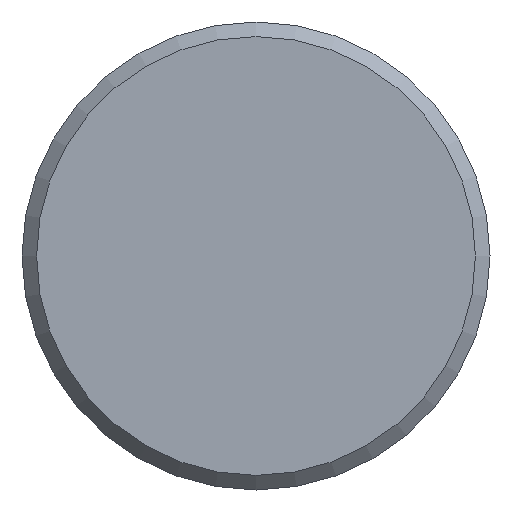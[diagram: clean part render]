
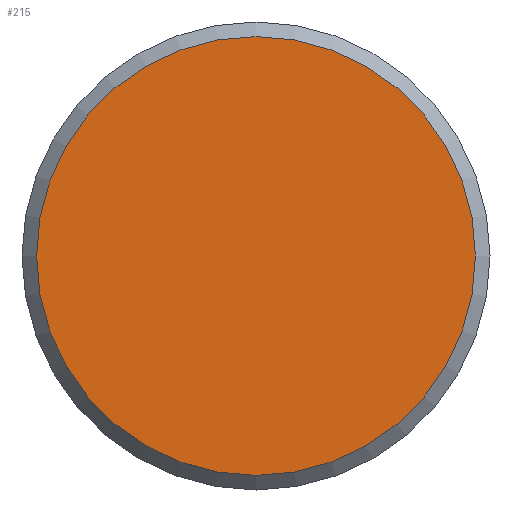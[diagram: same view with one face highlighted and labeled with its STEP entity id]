
A CAD part, left-side view. The second image highlights one B-rep face of the part: STEP entity #215.
In plain terms, the highlighted planar face has unit normal (-1, 0, 0).
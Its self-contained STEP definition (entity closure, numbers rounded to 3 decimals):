
#19 = CIRCLE ( 'NONE', #169, 7.5 ) ;
#20 = FACE_OUTER_BOUND ( 'NONE', #189, .T. ) ;
#60 = VERTEX_POINT ( 'NONE', #121 ) ;
#71 = DIRECTION ( 'NONE',  ( 0., 0., -1. ) ) ;
#74 = CARTESIAN_POINT ( 'NONE',  ( -7.5, 0., 0. ) ) ;
#75 = DIRECTION ( 'NONE',  ( -1., 0., 0. ) ) ;
#96 = PLANE ( 'NONE',  #170 ) ;
#97 = CARTESIAN_POINT ( 'NONE',  ( -7.5, 0., 0. ) ) ;
#119 = DIRECTION ( 'NONE',  ( 0., 0., -1. ) ) ;
#121 = CARTESIAN_POINT ( 'NONE',  ( -7.5, 0., -7.5 ) ) ;
#122 = DIRECTION ( 'NONE',  ( 1., 0., 0. ) ) ;
#165 = EDGE_CURVE ( 'NONE', #60, #60, #19, .T. ) ;
#169 = AXIS2_PLACEMENT_3D ( 'NONE', #74, #75, #71 ) ;
#170 = AXIS2_PLACEMENT_3D ( 'NONE', #97, #122, #119 ) ;
#189 = EDGE_LOOP ( 'NONE', ( #194 ) ) ;
#194 = ORIENTED_EDGE ( 'NONE', *, *, #165, .T. ) ;
#215 = ADVANCED_FACE ( 'NONE', ( #20 ), #96, .F. ) ;
